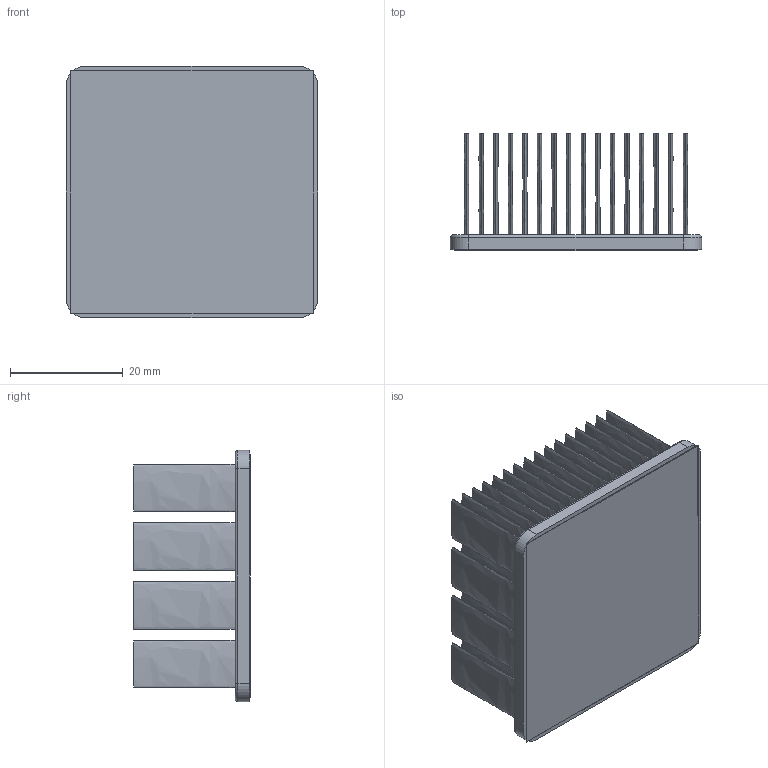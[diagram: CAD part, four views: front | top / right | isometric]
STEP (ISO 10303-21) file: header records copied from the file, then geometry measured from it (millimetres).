
FILE_DESCRIPTION (( 'STEP AP214' ), '1' );
FILE_NAME ('INM45001-21W-2.6.STEP', '2023-02-28T00:43:21', ( '' ), ( '' ), 'SwSTEP 2.0', 'SolidWorks 2020', '' );
FILE_SCHEMA (( 'AUTOMOTIVE_DESIGN' ));
Length unit declared in the file: inch
Products named in the file (1): INM45001-21W-2.6
Bounding box: 44.6 x 20.73 x 44.6 mm (x, y, z)
Volume: 11612 mm3; surface area: 27927.7 mm2
Topology: 2 solids, 2 shells, 216 faces, 436 edges, 288 vertices
Faces by surface type: bspline 128, plane 76, cylinder 8, torus 4
Entity records: 8759 total; most frequent: CARTESIAN_POINT 2605, ORIENTED_EDGE 872, EDGE_CURVE 436, DIRECTION 378, VERTEX_POINT 288, EDGE_LOOP 280, DIMENSIONAL_EXPONENTS 220, UNCERTAINTY_MEASURE_WITH_UNIT 220
